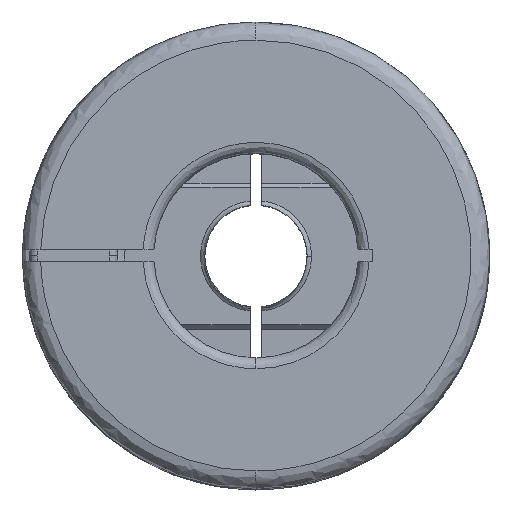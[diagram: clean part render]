
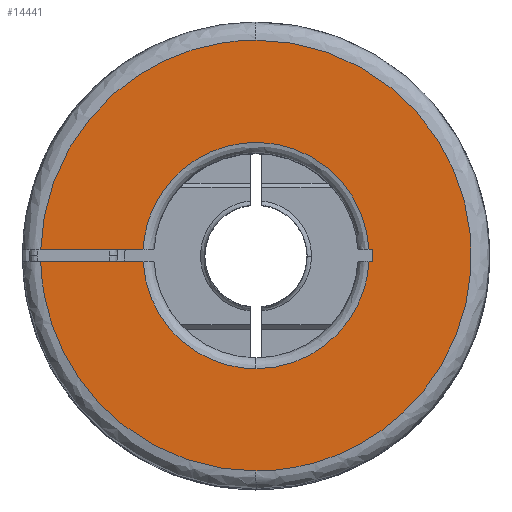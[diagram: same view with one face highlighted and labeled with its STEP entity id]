
A CAD part, top view. The second image highlights one B-rep face of the part: STEP entity #14441.
In plain terms, the highlighted planar face has unit normal (0, 0, 1).
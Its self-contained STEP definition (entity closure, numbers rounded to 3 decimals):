
#26 = VERTEX_POINT ( 'NONE', #11702 ) ;
#143 = VERTEX_POINT ( 'NONE', #11747 ) ;
#424 = EDGE_CURVE ( 'NONE', #26, #143, #11739, .T. ) ;
#427 = ORIENTED_EDGE ( 'NONE', *, *, #17915, .T. ) ;
#449 = EDGE_CURVE ( 'NONE', #17416, #143, #11766, .T. ) ;
#463 = CARTESIAN_POINT ( 'NONE',  ( -6.619, 1.595, 27.852 ) ) ;
#486 = CARTESIAN_POINT ( 'NONE',  ( 1.121, -5.755, 27.852 ) ) ;
#487 = CARTESIAN_POINT ( 'NONE',  ( -3.232, -5.755, 27.852 ) ) ;
#488 = CARTESIAN_POINT ( 'NONE',  ( -6.394, -2.758, 27.852 ) ) ;
#489 = CARTESIAN_POINT ( 'NONE',  ( -6.619, 1.595, 27.852 ) ) ;
#492 =( BOUNDED_CURVE ( )  B_SPLINE_CURVE ( 3, ( #489, #488, #487, #486 ),
 .UNSPECIFIED., .F., .T. ) 
 B_SPLINE_CURVE_WITH_KNOTS ( ( 4, 4 ),
 ( 0., 1. ),
 .UNSPECIFIED. ) 
 CURVE ( )  GEOMETRIC_REPRESENTATION_ITEM ( )  RATIONAL_B_SPLINE_CURVE ( ( 0.953, 0.779, 0.78, 0.957 ) ) 
 REPRESENTATION_ITEM ( '' )  );
#5652 = VERTEX_POINT ( 'NONE', #9769 ) ;
#6428 = VERTEX_POINT ( 'NONE', #20581 ) ;
#6430 = EDGE_CURVE ( 'NONE', #6428, #5652, #20569, .T. ) ;
#9769 = CARTESIAN_POINT ( 'NONE',  ( -6.619, 2.395, 27.852 ) ) ;
#11702 = CARTESIAN_POINT ( 'NONE',  ( 1.121, -5.755, 27.852 ) ) ;
#11738 = CARTESIAN_POINT ( 'NONE',  ( 1.121, -5.755, 27.852 ) ) ;
#11739 =( BOUNDED_CURVE ( )  B_SPLINE_CURVE ( 3, ( #11738, #11773, #11772, #11771 ),
 .UNSPECIFIED., .F., .T. ) 
 B_SPLINE_CURVE_WITH_KNOTS ( ( 4, 4 ),
 ( 0., 1. ),
 .UNSPECIFIED. ) 
 CURVE ( )  GEOMETRIC_REPRESENTATION_ITEM ( )  RATIONAL_B_SPLINE_CURVE ( ( 0.957, 0.78, 0.779, 0.953 ) ) 
 REPRESENTATION_ITEM ( '' )  );
#11747 = CARTESIAN_POINT ( 'NONE',  ( 8.86, 1.595, 27.852 ) ) ;
#11763 = DIRECTION ( 'NONE',  ( -1., 0., 0. ) ) ;
#11764 = VECTOR ( 'NONE', #11763, 1000. ) ;
#11765 = CARTESIAN_POINT ( 'NONE',  ( 8.615, 1.595, 27.852 ) ) ;
#11766 = LINE ( 'NONE', #11765, #11764 ) ;
#11771 = CARTESIAN_POINT ( 'NONE',  ( 8.86, 1.595, 27.852 ) ) ;
#11772 = CARTESIAN_POINT ( 'NONE',  ( 8.635, -2.758, 27.852 ) ) ;
#11773 = CARTESIAN_POINT ( 'NONE',  ( 5.474, -5.755, 27.852 ) ) ;
#13964 = CARTESIAN_POINT ( 'NONE',  ( 9.121, 1.595, 27.852 ) ) ;
#13966 = CARTESIAN_POINT ( 'NONE',  ( 9.121, 2.395, 27.852 ) ) ;
#13991 = DIRECTION ( 'NONE',  ( 1., 0., 0. ) ) ;
#13992 = VECTOR ( 'NONE', #13991, 1000. ) ;
#13993 = CARTESIAN_POINT ( 'NONE',  ( 8.615, 2.395, 27.852 ) ) ;
#13994 = LINE ( 'NONE', #13993, #13992 ) ;
#14001 = DIRECTION ( 'NONE',  ( 0., -1., 0. ) ) ;
#14002 = VECTOR ( 'NONE', #14001, 1000. ) ;
#14003 = CARTESIAN_POINT ( 'NONE',  ( 9.121, 1.995, 27.852 ) ) ;
#14014 = LINE ( 'NONE', #14003, #14002 ) ;
#14038 = CARTESIAN_POINT ( 'NONE',  ( 8.86, 2.395, 27.852 ) ) ;
#14056 = CARTESIAN_POINT ( 'NONE',  ( -6.619, 2.395, 27.852 ) ) ;
#14057 = CARTESIAN_POINT ( 'NONE',  ( -5.895, 16.408, 27.852 ) ) ;
#14058 = CARTESIAN_POINT ( 'NONE',  ( 8.136, 16.408, 27.852 ) ) ;
#14059 = CARTESIAN_POINT ( 'NONE',  ( 8.86, 2.395, 27.852 ) ) ;
#14060 =( BOUNDED_CURVE ( )  B_SPLINE_CURVE ( 3, ( #14059, #14058, #14057, #14056 ),
 .UNSPECIFIED., .F., .T. ) 
 B_SPLINE_CURVE_WITH_KNOTS ( ( 4, 4 ),
 ( 0., 1. ),
 .UNSPECIFIED. ) 
 CURVE ( )  GEOMETRIC_REPRESENTATION_ITEM ( )  RATIONAL_B_SPLINE_CURVE ( ( 0.94, 0.346, 0.346, 0.94 ) ) 
 REPRESENTATION_ITEM ( '' )  );
#14353 = ORIENTED_EDGE ( 'NONE', *, *, #19193, .F. ) ;
#14363 = ORIENTED_EDGE ( 'NONE', *, *, #6430, .T. ) ;
#14365 = VERTEX_POINT ( 'NONE', #18403 ) ;
#14368 = VERTEX_POINT ( 'NONE', #18397 ) ;
#14378 = ORIENTED_EDGE ( 'NONE', *, *, #14425, .F. ) ;
#14386 = ORIENTED_EDGE ( 'NONE', *, *, #14778, .F. ) ;
#14404 = ORIENTED_EDGE ( 'NONE', *, *, #14449, .F. ) ;
#14425 = EDGE_CURVE ( 'NONE', #14368, #14777, #18518, .T. ) ;
#14441 = ADVANCED_FACE ( 'NONE', ( #18542 ), #18541, .F. ) ;
#14449 = EDGE_CURVE ( 'NONE', #14365, #14368, #18571, .T. ) ;
#14777 = VERTEX_POINT ( 'NONE', #20105 ) ;
#14778 = EDGE_CURVE ( 'NONE', #6428, #14365, #20149, .T. ) ;
#14791 = EDGE_LOOP ( 'NONE', ( #14378, #14404, #14386, #14363, #14353, #427, #14802, #14817, #14816, #14808, #14820 ) ) ;
#14802 = ORIENTED_EDGE ( 'NONE', *, *, #17905, .T. ) ;
#14804 = EDGE_CURVE ( 'NONE', #14777, #19590, #20170, .T. ) ;
#14808 = ORIENTED_EDGE ( 'NONE', *, *, #19780, .F. ) ;
#14816 = ORIENTED_EDGE ( 'NONE', *, *, #424, .F. ) ;
#14817 = ORIENTED_EDGE ( 'NONE', *, *, #449, .T. ) ;
#14820 = ORIENTED_EDGE ( 'NONE', *, *, #14804, .F. ) ;
#17388 = VERTEX_POINT ( 'NONE', #13966 ) ;
#17416 = VERTEX_POINT ( 'NONE', #13964 ) ;
#17905 = EDGE_CURVE ( 'NONE', #17388, #17416, #14014, .T. ) ;
#17915 = EDGE_CURVE ( 'NONE', #18533, #17388, #13994, .T. ) ;
#18397 = CARTESIAN_POINT ( 'NONE',  ( 1.121, -12.755, 27.852 ) ) ;
#18403 = CARTESIAN_POINT ( 'NONE',  ( 1.121, 16.745, 27.852 ) ) ;
#18514 = CARTESIAN_POINT ( 'NONE',  ( -13.624, 1.595, 27.852 ) ) ;
#18515 = CARTESIAN_POINT ( 'NONE',  ( -13.394, -6.865, 27.852 ) ) ;
#18516 = CARTESIAN_POINT ( 'NONE',  ( -7.327, -12.755, 27.852 ) ) ;
#18517 = CARTESIAN_POINT ( 'NONE',  ( 1.121, -12.755, 27.852 ) ) ;
#18518 =( BOUNDED_CURVE ( )  B_SPLINE_CURVE ( 3, ( #18517, #18516, #18515, #18514 ),
 .UNSPECIFIED., .F., .T. ) 
 B_SPLINE_CURVE_WITH_KNOTS ( ( 4, 4 ),
 ( 0., 1. ),
 .UNSPECIFIED. ) 
 CURVE ( )  GEOMETRIC_REPRESENTATION_ITEM ( )  RATIONAL_B_SPLINE_CURVE ( ( 0.957, 0.775, 0.773, 0.952 ) ) 
 REPRESENTATION_ITEM ( '' )  );
#18533 = VERTEX_POINT ( 'NONE', #14038 ) ;
#18537 = DIRECTION ( 'NONE',  ( 0., -1., 0. ) ) ;
#18538 = DIRECTION ( 'NONE',  ( 0., 0., -1. ) ) ;
#18539 = CARTESIAN_POINT ( 'NONE',  ( 16.048, 16.922, 27.852 ) ) ;
#18540 = AXIS2_PLACEMENT_3D ( 'NONE', #18539, #18538, #18537 ) ;
#18541 = PLANE ( 'NONE',  #18540 ) ;
#18542 = FACE_OUTER_BOUND ( 'NONE', #14791, .T. ) ;
#18571 =( BOUNDED_CURVE ( )  B_SPLINE_CURVE ( 3, ( #18611, #18610, #18609, #18608 ),
 .UNSPECIFIED., .F., .T. ) 
 B_SPLINE_CURVE_WITH_KNOTS ( ( 4, 4 ),
 ( 0., 1. ),
 .UNSPECIFIED. ) 
 CURVE ( )  GEOMETRIC_REPRESENTATION_ITEM ( )  RATIONAL_B_SPLINE_CURVE ( ( 0.957, 0.319, 0.319, 0.957 ) ) 
 REPRESENTATION_ITEM ( '' )  );
#18608 = CARTESIAN_POINT ( 'NONE',  ( 1.121, -12.755, 27.852 ) ) ;
#18609 = CARTESIAN_POINT ( 'NONE',  ( 30.621, -12.755, 27.852 ) ) ;
#18610 = CARTESIAN_POINT ( 'NONE',  ( 30.621, 16.745, 27.852 ) ) ;
#18611 = CARTESIAN_POINT ( 'NONE',  ( 1.121, 16.745, 27.852 ) ) ;
#19193 = EDGE_CURVE ( 'NONE', #18533, #5652, #14060, .T. ) ;
#19590 = VERTEX_POINT ( 'NONE', #463 ) ;
#19780 = EDGE_CURVE ( 'NONE', #19590, #26, #492, .T. ) ;
#20105 = CARTESIAN_POINT ( 'NONE',  ( -13.624, 1.595, 27.852 ) ) ;
#20145 = CARTESIAN_POINT ( 'NONE',  ( 1.121, 16.745, 27.852 ) ) ;
#20146 = CARTESIAN_POINT ( 'NONE',  ( -7.327, 16.745, 27.852 ) ) ;
#20147 = CARTESIAN_POINT ( 'NONE',  ( -13.394, 10.856, 27.852 ) ) ;
#20148 = CARTESIAN_POINT ( 'NONE',  ( -13.624, 2.395, 27.852 ) ) ;
#20149 =( BOUNDED_CURVE ( )  B_SPLINE_CURVE ( 3, ( #20148, #20147, #20146, #20145 ),
 .UNSPECIFIED., .F., .T. ) 
 B_SPLINE_CURVE_WITH_KNOTS ( ( 4, 4 ),
 ( 0., 1. ),
 .UNSPECIFIED. ) 
 CURVE ( )  GEOMETRIC_REPRESENTATION_ITEM ( )  RATIONAL_B_SPLINE_CURVE ( ( 0.952, 0.773, 0.775, 0.957 ) ) 
 REPRESENTATION_ITEM ( '' )  );
#20167 = DIRECTION ( 'NONE',  ( 1., 0., 0. ) ) ;
#20168 = VECTOR ( 'NONE', #20167, 1000. ) ;
#20169 = CARTESIAN_POINT ( 'NONE',  ( 1.123, 1.595, 27.852 ) ) ;
#20170 = LINE ( 'NONE', #20169, #20168 ) ;
#20563 = DIRECTION ( 'NONE',  ( 1., 0., 0. ) ) ;
#20565 = VECTOR ( 'NONE', #20563, 1000. ) ;
#20567 = CARTESIAN_POINT ( 'NONE',  ( -10.371, 2.395, 27.852 ) ) ;
#20569 = LINE ( 'NONE', #20567, #20565 ) ;
#20581 = CARTESIAN_POINT ( 'NONE',  ( -13.624, 2.395, 27.852 ) ) ;
